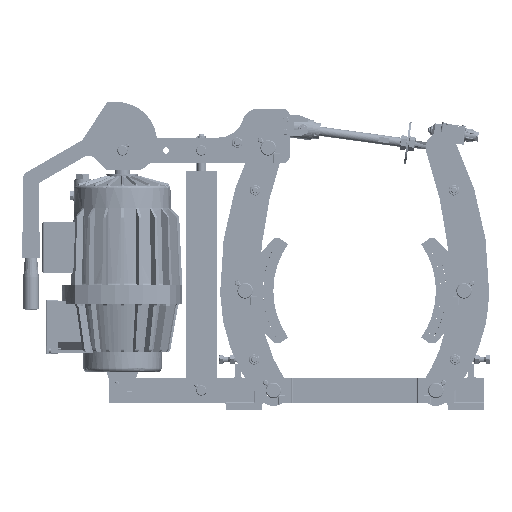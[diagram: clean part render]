
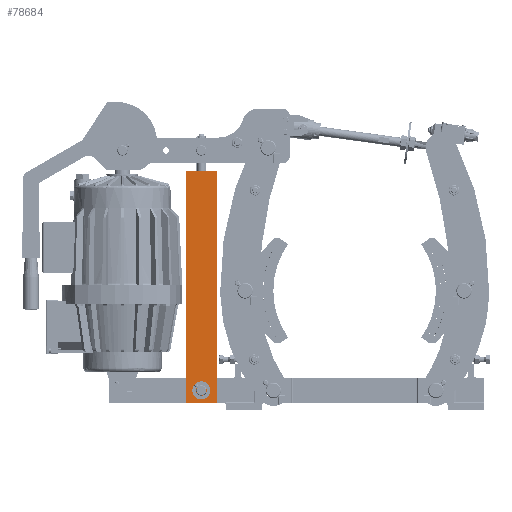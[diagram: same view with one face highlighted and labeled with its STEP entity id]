
A CAD part, left-side view. The second image highlights one B-rep face of the part: STEP entity #78684.
In plain terms, the highlighted planar face has unit normal (-1, 0, 0).
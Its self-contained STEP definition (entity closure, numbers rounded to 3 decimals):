
#78527=DIRECTION('',(0.,-1.,0.));
#78528=VECTOR('',#78527,60.);
#78529=CARTESIAN_POINT('',(-90.,577.,462.));
#78530=LINE('',#78529,#78528);
#78534=DIRECTION('',(0.,0.,-1.));
#78535=VECTOR('',#78534,450.);
#78536=CARTESIAN_POINT('',(-90.,517.,462.));
#78537=LINE('',#78536,#78535);
#78541=DIRECTION('',(0.,1.,0.));
#78542=VECTOR('',#78541,60.);
#78543=CARTESIAN_POINT('',(-90.,517.,12.));
#78544=LINE('',#78543,#78542);
#78548=DIRECTION('',(0.,0.,1.));
#78549=VECTOR('',#78548,450.);
#78550=CARTESIAN_POINT('',(-90.,577.,12.));
#78551=LINE('',#78550,#78549);
#78555=CARTESIAN_POINT('',(-90.,537.,37.));
#78556=CARTESIAN_POINT('',(-90.,537.,37.328));
#78557=CARTESIAN_POINT('',(-90.,537.032,37.982));
#78558=CARTESIAN_POINT('',(-90.,537.176,38.955));
#78559=CARTESIAN_POINT('',(-90.,537.415,39.908));
#78560=CARTESIAN_POINT('',(-90.,537.746,40.832));
#78561=CARTESIAN_POINT('',(-90.,538.167,41.723));
#78562=CARTESIAN_POINT('',(-90.,538.674,42.568));
#78563=CARTESIAN_POINT('',(-90.,539.261,43.358));
#78564=CARTESIAN_POINT('',(-90.,539.922,44.087));
#78565=CARTESIAN_POINT('',(-90.,540.65,44.746));
#78566=CARTESIAN_POINT('',(-90.,541.439,45.331));
#78567=CARTESIAN_POINT('',(-90.,542.282,45.835));
#78568=CARTESIAN_POINT('',(-90.,543.171,46.255));
#78569=CARTESIAN_POINT('',(-90.,544.093,46.585));
#78570=CARTESIAN_POINT('',(-90.,545.045,46.823));
#78571=CARTESIAN_POINT('',(-90.,546.018,46.968));
#78572=CARTESIAN_POINT('',(-90.,546.671,47.));
#78573=CARTESIAN_POINT('',(-90.,547.,47.));
#78578=CARTESIAN_POINT('',(-90.,547.,47.));
#78579=CARTESIAN_POINT('',(-90.,547.328,47.));
#78580=CARTESIAN_POINT('',(-90.,547.982,46.968));
#78581=CARTESIAN_POINT('',(-90.,548.955,46.824));
#78582=CARTESIAN_POINT('',(-90.,549.908,46.585));
#78583=CARTESIAN_POINT('',(-90.,550.832,46.254));
#78584=CARTESIAN_POINT('',(-90.,551.723,45.833));
#78585=CARTESIAN_POINT('',(-90.,552.568,45.326));
#78586=CARTESIAN_POINT('',(-90.,553.358,44.739));
#78587=CARTESIAN_POINT('',(-90.,554.087,44.078));
#78588=CARTESIAN_POINT('',(-90.,554.746,43.35));
#78589=CARTESIAN_POINT('',(-90.,555.331,42.561));
#78590=CARTESIAN_POINT('',(-90.,555.835,41.718));
#78591=CARTESIAN_POINT('',(-90.,556.255,40.829));
#78592=CARTESIAN_POINT('',(-90.,556.585,39.907));
#78593=CARTESIAN_POINT('',(-90.,556.823,38.955));
#78594=CARTESIAN_POINT('',(-90.,556.968,37.982));
#78595=CARTESIAN_POINT('',(-90.,557.,37.329));
#78596=CARTESIAN_POINT('',(-90.,557.,37.));
#78601=CARTESIAN_POINT('',(-90.,557.,37.));
#78602=CARTESIAN_POINT('',(-90.,557.,36.672));
#78603=CARTESIAN_POINT('',(-90.,556.968,36.018));
#78604=CARTESIAN_POINT('',(-90.,556.824,35.045));
#78605=CARTESIAN_POINT('',(-90.,556.585,34.092));
#78606=CARTESIAN_POINT('',(-90.,556.254,33.168));
#78607=CARTESIAN_POINT('',(-90.,555.833,32.277));
#78608=CARTESIAN_POINT('',(-90.,555.326,31.432));
#78609=CARTESIAN_POINT('',(-90.,554.739,30.642));
#78610=CARTESIAN_POINT('',(-90.,554.078,29.913));
#78611=CARTESIAN_POINT('',(-90.,553.35,29.254));
#78612=CARTESIAN_POINT('',(-90.,552.561,28.669));
#78613=CARTESIAN_POINT('',(-90.,551.718,28.165));
#78614=CARTESIAN_POINT('',(-90.,550.829,27.745));
#78615=CARTESIAN_POINT('',(-90.,549.907,27.415));
#78616=CARTESIAN_POINT('',(-90.,548.955,27.177));
#78617=CARTESIAN_POINT('',(-90.,547.982,27.032));
#78618=CARTESIAN_POINT('',(-90.,547.329,27.));
#78619=CARTESIAN_POINT('',(-90.,547.,27.));
#78624=CARTESIAN_POINT('',(-90.,547.,27.));
#78625=CARTESIAN_POINT('',(-90.,546.672,27.));
#78626=CARTESIAN_POINT('',(-90.,546.018,27.032));
#78627=CARTESIAN_POINT('',(-90.,545.045,27.176));
#78628=CARTESIAN_POINT('',(-90.,544.092,27.415));
#78629=CARTESIAN_POINT('',(-90.,543.168,27.746));
#78630=CARTESIAN_POINT('',(-90.,542.277,28.167));
#78631=CARTESIAN_POINT('',(-90.,541.432,28.674));
#78632=CARTESIAN_POINT('',(-90.,540.642,29.261));
#78633=CARTESIAN_POINT('',(-90.,539.913,29.922));
#78634=CARTESIAN_POINT('',(-90.,539.254,30.65));
#78635=CARTESIAN_POINT('',(-90.,538.669,31.439));
#78636=CARTESIAN_POINT('',(-90.,538.165,32.282));
#78637=CARTESIAN_POINT('',(-90.,537.745,33.171));
#78638=CARTESIAN_POINT('',(-90.,537.415,34.093));
#78639=CARTESIAN_POINT('',(-90.,537.177,35.045));
#78640=CARTESIAN_POINT('',(-90.,537.032,36.018));
#78641=CARTESIAN_POINT('',(-90.,537.,36.671));
#78642=CARTESIAN_POINT('',(-90.,537.,37.));
#78647=CARTESIAN_POINT('',(-90.,577.,462.));
#78648=CARTESIAN_POINT('',(-90.,517.,462.));
#78649=VERTEX_POINT('',#78647);
#78650=VERTEX_POINT('',#78648);
#78651=CARTESIAN_POINT('',(-90.,517.,12.));
#78652=VERTEX_POINT('',#78651);
#78653=CARTESIAN_POINT('',(-90.,577.,12.));
#78654=VERTEX_POINT('',#78653);
#78655=VERTEX_POINT('',#78555);
#78656=VERTEX_POINT('',#78573);
#78657=VERTEX_POINT('',#78596);
#78658=VERTEX_POINT('',#78619);
#78659=CARTESIAN_POINT('',(-90.,547.,237.));
#78660=DIRECTION('',(1.,0.,0.));
#78661=DIRECTION('',(0.,0.,1.));
#78662=AXIS2_PLACEMENT_3D('',#78659,#78660,#78661);
#78663=PLANE('',#78662);
#78665=ORIENTED_EDGE('',*,*,#78664,.T.);
#78667=ORIENTED_EDGE('',*,*,#78666,.T.);
#78669=ORIENTED_EDGE('',*,*,#78668,.T.);
#78671=ORIENTED_EDGE('',*,*,#78670,.T.);
#78672=EDGE_LOOP('',(#78665,#78667,#78669,#78671));
#78673=FACE_OUTER_BOUND('',#78672,.F.);
#78675=ORIENTED_EDGE('',*,*,#78674,.T.);
#78677=ORIENTED_EDGE('',*,*,#78676,.T.);
#78679=ORIENTED_EDGE('',*,*,#78678,.T.);
#78681=ORIENTED_EDGE('',*,*,#78680,.T.);
#78682=EDGE_LOOP('',(#78675,#78677,#78679,#78681));
#78683=FACE_BOUND('',#78682,.F.);
#78684=ADVANCED_FACE('',(#78673,#78683),#78663,.F.);
#78574=B_SPLINE_CURVE_WITH_KNOTS('',3,(#78555,#78556,#78557,#78558,#78559,
#78560,#78561,#78562,#78563,#78564,#78565,#78566,#78567,#78568,#78569,#78570,
#78571,#78572,#78573),.UNSPECIFIED.,.F.,.F.,(4,1,1,1,1,1,1,1,1,1,1,1,1,1,1,1,4),
(0.,0.063,0.125,0.188,0.25,0.313,0.375,0.438,0.5,0.563,
0.625,0.688,0.75,0.813,0.875,0.938,1.),.UNSPECIFIED.);
#78597=B_SPLINE_CURVE_WITH_KNOTS('',3,(#78578,#78579,#78580,#78581,#78582,
#78583,#78584,#78585,#78586,#78587,#78588,#78589,#78590,#78591,#78592,#78593,
#78594,#78595,#78596),.UNSPECIFIED.,.F.,.F.,(4,1,1,1,1,1,1,1,1,1,1,1,1,1,1,1,4),
(0.,0.063,0.125,0.188,0.25,0.313,0.375,0.438,0.5,0.563,
0.625,0.688,0.75,0.813,0.875,0.938,1.),.UNSPECIFIED.);
#78620=B_SPLINE_CURVE_WITH_KNOTS('',3,(#78601,#78602,#78603,#78604,#78605,
#78606,#78607,#78608,#78609,#78610,#78611,#78612,#78613,#78614,#78615,#78616,
#78617,#78618,#78619),.UNSPECIFIED.,.F.,.F.,(4,1,1,1,1,1,1,1,1,1,1,1,1,1,1,1,4),
(0.,0.063,0.125,0.188,0.25,0.313,0.375,0.438,0.5,0.563,
0.625,0.688,0.75,0.813,0.875,0.938,1.),.UNSPECIFIED.);
#78643=B_SPLINE_CURVE_WITH_KNOTS('',3,(#78624,#78625,#78626,#78627,#78628,
#78629,#78630,#78631,#78632,#78633,#78634,#78635,#78636,#78637,#78638,#78639,
#78640,#78641,#78642),.UNSPECIFIED.,.F.,.F.,(4,1,1,1,1,1,1,1,1,1,1,1,1,1,1,1,4),
(0.,0.063,0.125,0.188,0.25,0.313,0.375,0.438,0.5,0.563,
0.625,0.688,0.75,0.813,0.875,0.938,1.),.UNSPECIFIED.);
#78664=EDGE_CURVE('',#78649,#78650,#78530,.T.);
#78666=EDGE_CURVE('',#78650,#78652,#78537,.T.);
#78668=EDGE_CURVE('',#78652,#78654,#78544,.T.);
#78670=EDGE_CURVE('',#78654,#78649,#78551,.T.);
#78674=EDGE_CURVE('',#78655,#78656,#78574,.T.);
#78676=EDGE_CURVE('',#78656,#78657,#78597,.T.);
#78678=EDGE_CURVE('',#78657,#78658,#78620,.T.);
#78680=EDGE_CURVE('',#78658,#78655,#78643,.T.);
